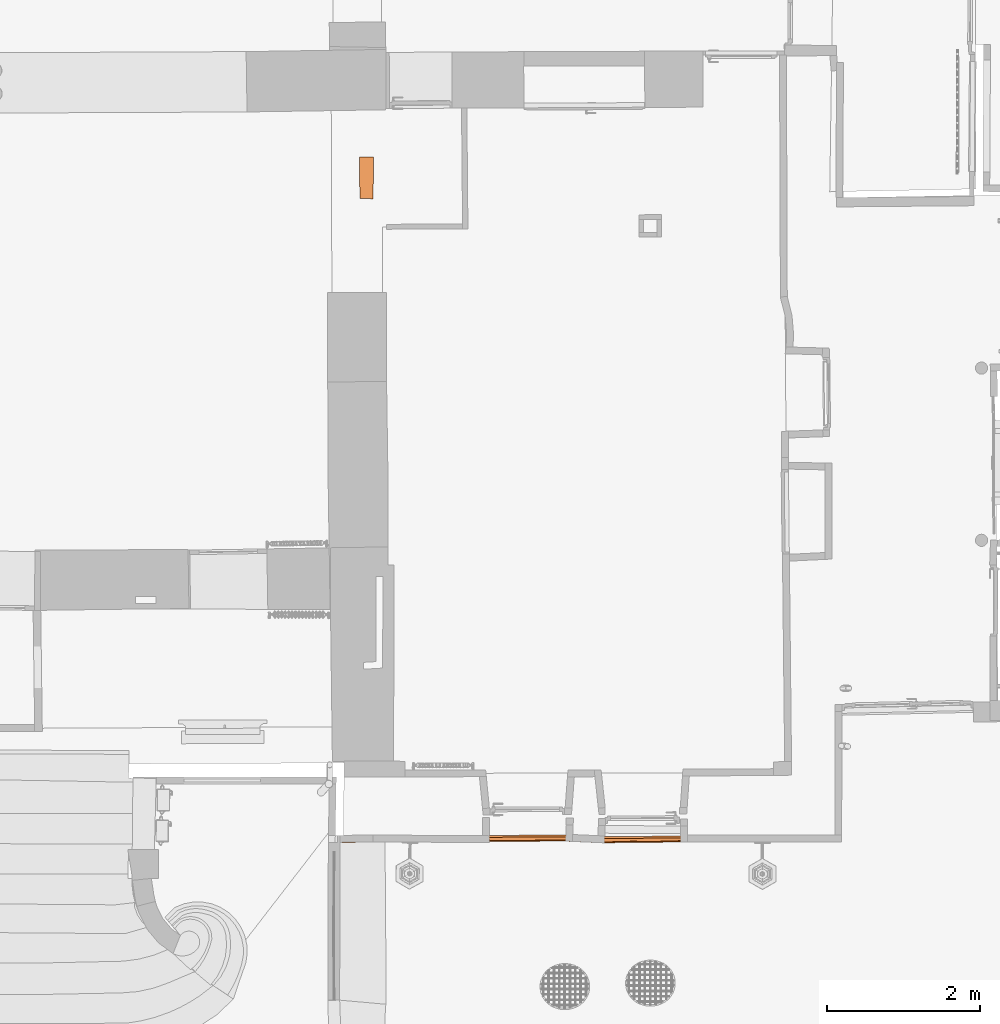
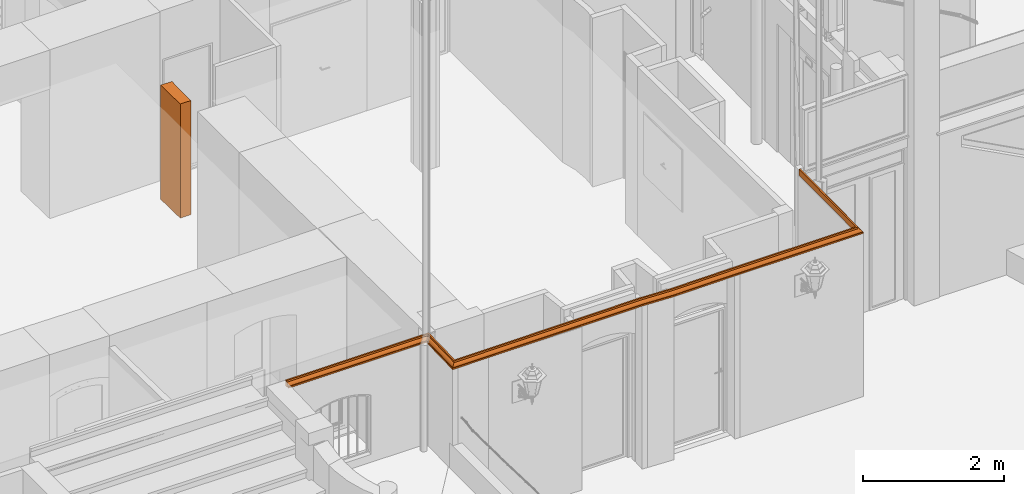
# One storey, part 126 of 133: 2 proxies.
"""IFC2X3 building model written with IfcOpenShell, lengths in centimetres."""

from ifc_helpers import new_model, entity, si_unit, converted_unit, direction, frame, origin, origin_with_axes, place, context, subcontext, project, spatial, faceted_brep, material, type_object, element, save


model = new_model("IFC2X3")

# Units and contexts
model_context = context("Model", 3, precision=0.0001, world=origin(), true_north=direction((0.225632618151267, 0.974212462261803, 0.0)))
body_context = subcontext(model_context, "Body", "Model", "MODEL_VIEW")
ifc_project = project(units=[si_unit("LENGTHUNIT", "METRE", prefix="CENTI"), si_unit("AREAUNIT", "SQUARE_METRE", prefix="CENTI"), si_unit("VOLUMEUNIT", "CUBIC_METRE", prefix="CENTI"), converted_unit("PLANEANGLEUNIT", "DEGREE", entity("IfcRatioMeasure", 0.0174532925), si_unit("PLANEANGLEUNIT", "RADIAN"), dimensions=[0, 0, 0, 0, 0, 0, 0])], contexts=[model_context])

# Site, building, storey
site_placement = place(None, origin_with_axes())
site = spatial("IfcSite", under=ifc_project, at=site_placement, Name="Default Site", CompositionType="ELEMENT")
building_placement = place(site_placement, origin_with_axes())
building = spatial("IfcBuilding", under=site, at=building_placement, Name="Default Building", CompositionType="ELEMENT")
storey_placement = place(building_placement, frame((0.0, 0.0, -291.400371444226), z_axis=(0.0, 0.0, 1.0), x_axis=(1.0, 0.0, 0.0)))
storey = spatial("IfcBuildingStorey", under=building, at=storey_placement, Name="Rez-de-Jardin", CompositionType="ELEMENT", Elevation=-291.400371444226)

# Proxies
ifc_material_1 = material(Name="Aluminium mat")
building_element_proxy_type = type_object("IfcBuildingElementProxyType", Name="Base100x80mm", PredefinedType="NOTDEFINED", material=ifc_material_1)
proxy_1_placement = place(storey_placement, origin_with_axes())
element("IfcBuildingElementProxy", 1, at=proxy_1_placement, inside=storey, type_object=building_element_proxy_type, material=ifc_material_1, Name="Extrusion (solide) 380567", context=body_context, shape_type="Brep", body=[
    faceted_brep([(231.900000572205, -980.200004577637, 281.4000002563), (231.900000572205, -980.200004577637, 283.900000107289), (6.35858923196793, -980.200004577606, 283.900000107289), (6.35858923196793, -980.200004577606, 281.4000002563), (232.918310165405, -979.199981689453, 283.900000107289), (6.35858923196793, -979.199981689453, 283.900000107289), (6.35858923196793, -980.200004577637, 283.900000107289), (233.006358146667, -979.113516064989, 284.777900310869), (6.35858923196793, -979.113516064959, 284.777900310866), (6.35858923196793, -979.199981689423, 283.900000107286), (233.006358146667, -979.113578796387, 284.777906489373), (233.267140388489, -978.857496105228, 285.622098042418), (6.35858923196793, -978.8574961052, 285.62209804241), (6.35858923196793, -979.113578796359, 284.777906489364), (233.267140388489, -978.857421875, 285.622075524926), (233.690595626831, -978.441586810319, 286.400048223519), (6.35858923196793, -978.441586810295, 286.400048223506), (6.35858923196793, -978.857421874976, 285.622075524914), (233.690595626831, -978.441619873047, 286.400065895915), (234.260487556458, -977.881993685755, 287.081972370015), (6.35858923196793, -977.881993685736, 287.081972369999), (6.35858923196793, -978.441619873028, 286.4000658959), (234.260487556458, -977.88200378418, 287.081980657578), (234.954881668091, -977.200054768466, 287.641641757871), (6.35858923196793, -977.200054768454, 287.641641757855), (6.35858923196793, -977.882003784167, 287.081980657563), (234.954881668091, -977.200031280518, 287.641613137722), (235.747122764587, -976.42210161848, 288.057425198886), (6.35858923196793, -976.422101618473, 288.057425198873), (6.35858923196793, -977.200031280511, 287.641613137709), (235.747122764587, -976.422119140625, 288.057457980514), (236.606764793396, -975.577928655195, 288.313540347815), (6.35858923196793, -975.577928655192, 288.313540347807), (6.35858923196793, -976.422119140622, 288.057457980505), (236.606764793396, -975.577926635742, 288.313533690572), (237.500762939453, -974.699974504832, 288.400004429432), (6.35858923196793, -974.699974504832, 288.400004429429), (6.35858923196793, -975.577926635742, 288.313533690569), (237.500762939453, -974.699974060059, 288.399999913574), (237.500762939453, -974.699974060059, 291.400000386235), (6.35858923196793, -974.699974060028, 291.400000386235), (6.35858923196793, -974.699974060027, 288.399999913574), (240.046548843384, -972.200012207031, 291.400000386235), (6.35858923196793, -972.200012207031, 291.400000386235), (6.35858923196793, -974.699974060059, 291.400000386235), (240.046548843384, -972.200012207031, 281.4000002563), (6.35858923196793, -972.200012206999, 281.4000002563), (6.35858923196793, -972.200012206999, 291.400000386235), (6.35858923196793, -980.200004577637, 281.4000002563), (6.35858923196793, -972.200012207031, 281.4000002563), (230.510497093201, -1056.73885345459, 281.4000002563), (230.5104970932, -1056.73885345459, 283.900000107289), (231.899996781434, -980.200004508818, 283.900000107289), (231.899996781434, -980.200004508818, 281.4000002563), (230.510497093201, -1056.73885345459, 283.900000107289), (231.528925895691, -1055.73329925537, 283.900000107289), (231.61698522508, -1055.64632436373, 284.777905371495), (233.006374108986, -979.113579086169, 284.777904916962), (232.91832506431, -979.19998195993, 283.899998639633), (231.616973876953, -1055.64632415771, 284.777906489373), (231.877767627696, -1055.38883186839, 285.622079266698), (233.267131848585, -978.857421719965, 285.622078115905), (233.006362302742, -979.113578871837, 284.777905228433), (231.877779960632, -1055.38883209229, 285.622075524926), (232.301283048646, -1054.97074127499, 286.400065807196), (233.690603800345, -978.44162002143, 286.400061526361), (233.267143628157, -978.857421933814, 285.622073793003), (232.30128288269, -1054.97074127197, 286.400065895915), (232.871223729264, -1054.40797808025, 287.081979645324), (234.260489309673, -977.882003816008, 287.081979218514), (233.690601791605, -978.441619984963, 286.400060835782), (232.871222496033, -1054.40797805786, 287.081980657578), (233.565691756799, -1053.72228629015, 287.641608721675), (234.954887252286, -977.200031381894, 287.64160633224), (234.260487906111, -977.882003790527, 287.081980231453), (233.56568813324, -1053.72228622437, 287.641613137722), (234.358021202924, -1052.939987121, 288.057464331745), (235.747123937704, -976.422119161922, 288.057455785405), (234.954882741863, -977.200031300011, 287.641611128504), (234.358024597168, -1052.93998718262, 288.057457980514), (235.217738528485, -1052.09112168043, 288.313532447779), (236.606765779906, -975.577926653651, 288.313530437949), (235.747124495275, -976.422119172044, 288.057452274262), (235.21773815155, -1052.09112167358, 288.313533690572), (236.111807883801, -1051.20840072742, 288.399999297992), (237.500762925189, -974.6999740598, 288.400000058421), (236.606764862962, -975.577926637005, 288.313532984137), (236.111807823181, -1051.20840072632, 288.399999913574), (236.111807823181, -1051.20840072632, 291.400000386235), (237.50075522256, -974.699973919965, 291.400000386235), (237.50075522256, -974.699973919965, 288.399999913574), (238.657855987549, -1048.69451522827, 291.400000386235), (238.657855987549, -1048.69451522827, 281.4000002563), (240.046550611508, -972.20001223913, 281.4000002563), (240.046550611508, -972.20001223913, 291.400000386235), (541.547107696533, -1055.05132675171, 281.400010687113), (541.54710769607, -1055.05132666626, 283.900010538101), (230.510496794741, -1056.73879844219, 283.900000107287), (230.510496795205, -1056.73879852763, 281.400000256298), (541.547107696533, -1055.05132675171, 283.900010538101), (541.567039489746, -1054.05120849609, 283.90001050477), (231.528925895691, -1055.73329925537, 283.900000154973), (230.510497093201, -1056.73885345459, 283.900000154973), (541.567039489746, -1054.05120849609, 283.900010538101), (541.5688039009, -1053.9647311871, 284.777918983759), (231.616973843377, -1055.64631796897, 284.777905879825), (231.528925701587, -1055.73326347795, 283.899996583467), (541.568803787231, -1053.9647102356, 284.777916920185), (541.57390571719, -1053.70860672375, 285.622073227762), (231.877779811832, -1055.38880466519, 285.622067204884), (231.616973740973, -1055.64629909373, 284.777898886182), (541.573905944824, -1053.70864868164, 285.622085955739), (541.582202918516, -1053.29275262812, 286.400077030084), (232.301282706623, -1054.9707088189, 286.400048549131), (231.877780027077, -1055.38884433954, 285.622082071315), (541.582202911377, -1053.29275131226, 286.400076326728), (541.593360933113, -1052.73304579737, 287.081995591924), (232.871222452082, -1054.40796995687, 287.081974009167), (232.301282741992, -1054.9707153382, 286.4000446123), (541.593360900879, -1052.73303985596, 287.081990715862), (541.606998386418, -1052.0510568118, 287.641610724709), (233.565688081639, -1053.72227671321, 287.641601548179), (232.871222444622, -1054.4079685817, 287.081969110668), (541.606998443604, -1052.05106735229, 287.641623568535), (541.622543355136, -1051.27296819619, 288.057474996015), (234.358024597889, -1052.93998731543, 288.057458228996), (233.565688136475, -1053.72228682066, 287.641614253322), (541.622543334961, -1051.27296447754, 288.057468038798), (541.639375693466, -1050.42867786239, 288.313548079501), (235.217738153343, -1052.09112200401, 288.313534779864), (234.35802458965, -1052.93998579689, 288.057453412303), (541.639375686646, -1050.42867660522, 288.31354393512), (541.65692329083, -1049.55072343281, 288.400004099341), (236.111807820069, -1051.20840015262, 288.399994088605), (235.217738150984, -1052.09112156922, 288.313532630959), (541.656923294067, -1049.55072402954, 288.400010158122), (541.656923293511, -1049.55072392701, 291.400010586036), (236.111807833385, -1051.20840260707, 291.400000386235), (236.111807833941, -1051.2084027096, 288.399999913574), (541.656923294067, -1049.55072402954, 291.400010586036), (541.706848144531, -1047.05038070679, 291.400010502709), (238.657855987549, -1048.69451522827, 291.400000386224), (236.111807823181, -1051.20840072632, 291.400000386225), (541.706848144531, -1047.05038070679, 291.400010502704), (541.706848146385, -1047.05038104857, 281.400009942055), (238.657855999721, -1048.69451747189, 281.4000002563), (238.657855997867, -1048.69451713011, 291.400000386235), (541.706848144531, -1047.05038070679, 281.400009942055), (541.547107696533, -1055.05132675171, 281.400010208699), (230.510497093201, -1056.73885345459, 281.39999982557), (238.657855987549, -1048.69451522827, 281.39999982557), (591.982221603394, -1057.34014511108, 281.400010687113), (591.982221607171, -1057.34014502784, 283.900010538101), (541.547107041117, -1055.05134119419, 283.900010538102), (541.547107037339, -1055.05134127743, 281.400010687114), (591.982221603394, -1057.34014511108, 283.900010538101), (591.9997215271, -1056.33993148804, 283.900010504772), (591.9997215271, -1056.33993148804, 283.900010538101), (592.001246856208, -1056.25344534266, 284.777918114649), (541.568801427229, -1053.96476223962, 284.777922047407), (541.567038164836, -1054.05123769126, 283.900013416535), (592.001247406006, -1056.25343322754, 284.777916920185), (592.005728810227, -1055.99729536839, 285.622091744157), (541.573906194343, -1053.70864318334, 285.622084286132), (541.568802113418, -1053.96474711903, 284.77792812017), (592.005729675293, -1055.99727630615, 285.622085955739), (592.012979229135, -1055.58134303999, 286.400057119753), (541.582203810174, -1053.29273150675, 286.400065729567), (541.573906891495, -1053.7086278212, 285.622074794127), (592.012977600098, -1055.58137893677, 286.400076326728), (592.022799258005, -1055.02159828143, 287.082012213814), (541.593360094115, -1052.73305763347, 287.082005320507), (541.582202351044, -1053.29276365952, 286.400086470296), (592.022800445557, -1055.02157211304, 287.081990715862), (592.034721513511, -1054.339501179, 287.64161983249), (541.606999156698, -1052.05105163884, 287.641604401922), (541.593361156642, -1052.73303422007, 287.081983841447), (592.034721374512, -1054.33950424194, 287.641623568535), (592.04831099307, -1053.56131129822, 288.05747796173), (541.622543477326, -1051.27296134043, 288.057462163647), (541.606998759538, -1052.05106039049, 287.641610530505), (592.048311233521, -1053.56130599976, 288.057468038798), (592.063093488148, -1052.71701145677, 288.313521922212), (541.639375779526, -1050.42867455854, 288.31353718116), (541.622543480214, -1051.27296127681, 288.057457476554), (592.063093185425, -1052.71701812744, 288.31354393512), (592.078447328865, -1051.83887510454, 288.400013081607), (541.656923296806, -1049.55072396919, 288.400009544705), (541.63937566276, -1050.42867713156, 288.313549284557), (592.078447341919, -1051.83887481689, 288.400010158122), (592.078447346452, -1051.83887471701, 291.400010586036), (541.656924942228, -1049.55068771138, 291.400010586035), (541.656924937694, -1049.55068781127, 288.400010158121), (592.078447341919, -1051.83887481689, 291.400010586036), (592.122220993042, -1049.33824539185, 291.400010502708), (541.706848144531, -1047.05038070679, 291.40001050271), (541.656923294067, -1049.55072402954, 291.400010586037), (592.122220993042, -1049.33824539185, 291.400010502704), (592.122220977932, -1049.33824572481, 281.400009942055), (541.706850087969, -1047.05033788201, 281.400009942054), (541.706850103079, -1047.05033754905, 291.400010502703), (592.122220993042, -1049.33824539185, 281.400009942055), (591.982221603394, -1057.34014511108, 281.400010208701), (541.547107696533, -1055.05132675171, 281.4000102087), (541.706848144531, -1047.05038070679, 281.400009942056), (691.648864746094, -1056.30722045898, 281.400010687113), (691.64886474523, -1056.30722037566, 283.900010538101), (591.982222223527, -1057.34020494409, 283.900010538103), (591.98222222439, -1057.34020502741, 281.400010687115), (691.648864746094, -1056.30722045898, 283.900010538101), (691.643333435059, -1055.3071975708, 283.90001050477), (591.9997215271, -1056.33993148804, 283.90001050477), (591.982221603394, -1057.34014511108, 283.900010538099), (691.643333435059, -1055.3071975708, 283.900010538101), (691.642856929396, -1055.22073129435, 284.777920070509), (592.001247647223, -1056.25345650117, 284.777919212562), (591.999721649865, -1056.33994333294, 283.900011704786), (691.6428565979, -1055.2206993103, 284.777916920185), (691.641425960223, -1054.96462557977, 285.622082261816), (592.005729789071, -1055.99728728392, 285.622089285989), (592.001247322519, -1056.25342517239, 284.777914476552), (691.641426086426, -1054.96463775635, 285.622085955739), (691.639136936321, -1054.54880374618, 286.400059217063), (592.012977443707, -1055.58136384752, 286.400068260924), (592.005729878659, -1055.99729592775, 285.622096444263), (691.639137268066, -1054.54883575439, 286.400076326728), (691.636038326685, -1053.98917255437, 287.082030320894), (592.022800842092, -1055.0216103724, 287.082022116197), (592.012977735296, -1055.58139198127, 286.400087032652), (691.636037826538, -1053.9891242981, 287.081990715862), (691.632270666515, -1053.30723302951, 287.641606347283), (592.034721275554, -1054.33949469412, 287.64161193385), (592.022800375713, -1055.02156537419, 287.081982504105), (691.632270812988, -1053.30724716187, 287.641623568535), (691.627979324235, -1052.52924406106, 288.057476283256), (592.048311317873, -1053.56131413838, 288.057483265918), (592.034721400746, -1054.33950677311, 287.641628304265), (691.627979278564, -1052.52923965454, 288.057468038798), (691.623306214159, -1051.68513670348, 288.313524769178), (592.063093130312, -1052.71701280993, 288.313526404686), (592.048311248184, -1053.56130741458, 288.057472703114), (691.623306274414, -1051.68514251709, 288.31354393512), (691.618490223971, -1050.80719040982, 288.400014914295), (592.078447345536, -1051.83887516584, 288.400013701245), (592.06309318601, -1052.71701818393, 288.313544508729), (691.618490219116, -1050.80718994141, 288.400010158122), (691.61849021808, -1050.80718984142, 291.400010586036), (592.078447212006, -1051.83886228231, 291.400010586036), (592.078447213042, -1051.8388623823, 288.400010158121), (691.618490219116, -1050.80718994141, 291.400010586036), (691.604661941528, -1048.30722808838, 291.400010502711), (592.122220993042, -1049.33824539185, 291.400010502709), (592.078447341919, -1051.83887481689, 291.400010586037), (691.604661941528, -1048.30722808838, 291.400010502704), (691.604661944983, -1048.30722842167, 281.400009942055), (592.122221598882, -1049.33830384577, 281.400009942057), (592.122221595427, -1049.33830351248, 291.400010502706), (691.604661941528, -1048.30722808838, 281.400009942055), (691.648864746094, -1056.30722045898, 281.400010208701), (591.982221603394, -1057.34014511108, 281.400010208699), (592.122220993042, -1049.33824539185, 281.400009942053), (901.974773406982, -1056.1635017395, 281.400010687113), (901.974773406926, -1056.16350165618, 283.900010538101), (691.648864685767, -1056.30713211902, 283.900010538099), (691.648864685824, -1056.30713220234, 281.40001068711), (901.974773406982, -1056.1635017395, 283.900010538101), (900.981044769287, -1055.16424179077, 283.900010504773), (691.643333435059, -1055.3071975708, 283.900010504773), (691.648864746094, -1056.30722045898, 283.900010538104), (900.981044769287, -1055.16424179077, 283.900010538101), (900.895118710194, -1055.07783423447, 284.777916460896), (691.642856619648, -1055.22073115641, 284.777920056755), (691.643333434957, -1055.30719742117, 283.900010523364), (900.895118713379, -1055.07783889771, 284.777916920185), (900.640678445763, -1054.82193128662, 285.622103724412), (691.641426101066, -1054.96465919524, 285.62209245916), (691.642856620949, -1055.22073306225, 284.777927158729), (900.640678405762, -1054.82187271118, 285.622085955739), (900.227451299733, -1054.40632059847, 286.40005697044), (691.639137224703, -1054.54877225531, 286.400042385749), (691.641426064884, -1054.96460621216, 285.622069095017), (900.227451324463, -1054.40635681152, 286.400076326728), (899.671268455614, -1053.84711117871, 287.081981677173), (691.636037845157, -1053.98915156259, 287.082013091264), (691.639137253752, -1054.54881479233, 286.400059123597), (899.671268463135, -1053.84712219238, 287.081990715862), (898.993682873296, -1053.16564405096, 287.641644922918), (691.63227082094, -1053.30725880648, 287.641637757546), (691.636037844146, -1053.98915008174, 287.08202213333), (898.993682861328, -1053.16562652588, 287.641623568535), (898.22053908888, -1052.388185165, 288.057456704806), (691.627979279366, -1052.52924082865, 288.05747023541), (691.632270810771, -1053.3072439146, 287.64161749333), (898.220539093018, -1052.38819122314, 288.057468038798), (897.381687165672, -1051.54457292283, 288.313550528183), (691.623306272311, -1051.68513943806, 288.313533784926), (691.627979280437, -1052.52924239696, 288.05747707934), (897.381687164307, -1051.54457092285, 288.31354393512), (896.509265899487, -1050.66728566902, 288.400007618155), (691.618490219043, -1050.80718983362, 288.400009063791), (691.623306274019, -1051.68514193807, 288.313538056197), (896.509265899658, -1050.66728591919, 288.400010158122), (896.50926589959, -1050.6672858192, 291.400010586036), (691.618490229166, -1050.80720465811, 291.400010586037), (691.618490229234, -1050.8072047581, 288.400010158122), (896.509265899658, -1050.66728591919, 291.400010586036), (894.02494430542, -1048.1689453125, 291.400010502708), (691.604661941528, -1048.30722808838, 291.40001050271), (894.02494430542, -1048.1689453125, 291.400010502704), (894.024944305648, -1048.16894564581, 281.400009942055), (691.604661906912, -1048.30717739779, 281.400009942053), (691.604661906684, -1048.30717706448, 291.400010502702), (894.02494430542, -1048.1689453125, 281.400009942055), (901.974773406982, -1056.1635017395, 281.4000102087), (691.648864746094, -1056.30722045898, 281.400010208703), (691.604661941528, -1048.30722808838, 281.400009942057), (903.050804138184, -885.355472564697, 281.400010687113), (903.050804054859, -885.355472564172, 283.900010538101), (901.974737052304, -1056.16350151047, 283.9000105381), (901.974737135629, -1056.163501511, 281.400010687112), (903.050804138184, -885.355472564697, 283.900010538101), (902.050876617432, -885.349178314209, 283.900010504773), (900.981044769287, -1055.16424179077, 283.900010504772), (901.974773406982, -1056.1635017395, 283.900010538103), (902.050876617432, -885.349178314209, 283.900010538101), (901.964411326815, -885.348701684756, 284.777920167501), (900.895141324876, -1055.07783904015, 284.777919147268), (900.981064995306, -1055.16424191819, 283.900012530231), (901.964378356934, -885.348701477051, 284.777916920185), (901.708308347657, -885.347080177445, 285.622083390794), (900.640643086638, -1054.82187248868, 285.622075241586), (900.895109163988, -1055.07783883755, 284.777914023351), (901.708316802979, -885.347080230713, 285.622085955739), (901.292488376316, -885.344409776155, 286.400062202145), (900.227422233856, -1054.40635662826, 286.400060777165), (900.640655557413, -1054.82187256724, 285.622073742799), (901.292514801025, -885.344409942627, 286.400076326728), (900.732895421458, -885.340881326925, 287.0819880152), (899.67130355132, -1053.84712241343, 287.082019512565), (900.227449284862, -1054.40635679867, 286.400074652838), (900.732898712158, -885.340881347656, 287.081990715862), (900.050954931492, -885.336589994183, 287.641658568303), (898.993688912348, -1053.165626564, 287.64163094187), (899.671294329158, -1053.84712235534, 287.082022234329), (900.050926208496, -885.336589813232, 287.641623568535), (899.273000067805, -885.331725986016, 288.057441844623), (898.220534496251, -1052.38819119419, 288.057459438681), (898.993670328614, -1053.16562644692, 287.641600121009), (899.273014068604, -885.331726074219, 288.057468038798), (898.428824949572, -885.326385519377, 288.313555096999), (897.381689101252, -1051.54457093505, 288.313550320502), (898.220542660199, -1052.38819124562, 288.057479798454), (898.428821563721, -885.326385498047, 288.31354393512), (897.550964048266, -885.320854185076, 288.400007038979), (896.509265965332, -1050.6672859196, 288.400010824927), (897.381686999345, -1051.54457092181, 288.313542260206), (897.550964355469, -885.320854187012, 288.400010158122), (897.550964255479, -885.320854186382, 291.400010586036), (896.509304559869, -1050.66728616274, 291.400010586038), (896.509304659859, -1050.66728616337, 288.400010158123), (897.550964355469, -885.320854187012, 291.400010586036), (895.051002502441, -885.305118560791, 291.400010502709), (896.509265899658, -1050.66728591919, 291.400010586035), (895.051002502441, -885.305118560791, 291.400010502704), (895.051002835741, -885.305118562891, 281.400009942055), (894.024983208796, -1048.16894555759, 281.400009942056), (894.024982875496, -1048.16894555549, 291.400010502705), (895.051002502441, -885.305118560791, 281.400009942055), (903.050804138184, -885.355472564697, 281.400010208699), (901.974773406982, -1056.1635017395, 281.400010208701), (894.02494430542, -1048.1689453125, 281.400009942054), (6.35858923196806, -979.199981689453, 283.900000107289), (6.35858923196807, -979.113578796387, 284.777906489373), (6.35858923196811, -978.857421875, 285.622075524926), (6.35858923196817, -978.441619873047, 286.400065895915), (6.35858923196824, -977.88200378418, 287.081980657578), (6.35858923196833, -977.200031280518, 287.641613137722), (6.35858923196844, -976.422119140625, 288.057457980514), (6.35858923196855, -975.577926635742, 288.313533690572), (6.35858923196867, -974.699974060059, 288.399999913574), (6.35858923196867, -974.699974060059, 291.400000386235), (6.35858923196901, -972.200012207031, 291.400000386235), (6.35858923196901, -972.200012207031, 281.4000002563), (897.550964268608, -885.320867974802, 291.400010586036), (897.550964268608, -885.320867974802, 288.400010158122), (898.42882148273, -885.326398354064, 288.31354393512), (899.273014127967, -885.331716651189, 288.057468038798), (900.050926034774, -885.336617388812, 287.641623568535), (900.732898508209, -885.34091372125, 287.081990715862), (901.292514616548, -885.344439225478, 286.400076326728), (901.708316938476, -885.347058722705, 285.622085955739), (901.964378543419, -885.348671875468, 284.777916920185), (902.050876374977, -885.349216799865, 283.900010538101), (903.050803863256, -885.355516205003, 283.900010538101), (903.050803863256, -885.355516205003, 281.400010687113)], [[[0, 1, 2, 3]], [[1, 4, 5, 6]], [[4, 7, 8, 9]], [[10, 11, 12, 13]], [[14, 15, 16, 17]], [[18, 19, 20, 21]], [[22, 23, 24, 25]], [[26, 27, 28, 29]], [[30, 31, 32, 33]], [[34, 35, 36, 37]], [[38, 39, 40, 41]], [[39, 42, 43, 44]], [[42, 45, 46, 47]], [[45, 0, 48, 49]], [[50, 51, 52, 53]], [[54, 55, 4, 1]], [[55, 56, 57, 58]], [[59, 60, 61, 62]], [[63, 64, 65, 66]], [[67, 68, 69, 70]], [[71, 72, 73, 74]], [[75, 76, 77, 78]], [[79, 80, 81, 82]], [[83, 84, 85, 86]], [[87, 88, 89, 90]], [[88, 91, 42, 39]], [[91, 92, 93, 94]], [[92, 50, 0, 45]], [[95, 96, 97, 98]], [[99, 100, 101, 102]], [[103, 104, 105, 106]], [[107, 108, 109, 110]], [[111, 112, 113, 114]], [[115, 116, 117, 118]], [[119, 120, 121, 122]], [[123, 124, 125, 126]], [[127, 128, 129, 130]], [[131, 132, 133, 134]], [[135, 136, 137, 138]], [[139, 140, 141, 142]], [[143, 144, 145, 146]], [[147, 148, 149, 150]], [[151, 152, 153, 154]], [[155, 156, 100, 99]], [[157, 158, 159, 160]], [[161, 162, 163, 164]], [[165, 166, 167, 168]], [[169, 170, 171, 172]], [[173, 174, 175, 176]], [[177, 178, 179, 180]], [[181, 182, 183, 184]], [[185, 186, 187, 188]], [[189, 190, 191, 192]], [[193, 194, 195, 196]], [[197, 198, 199, 200]], [[201, 202, 203, 204]], [[205, 206, 207, 208]], [[209, 210, 211, 212]], [[213, 214, 215, 216]], [[217, 218, 219, 220]], [[221, 222, 223, 224]], [[225, 226, 227, 228]], [[229, 230, 231, 232]], [[233, 234, 235, 236]], [[237, 238, 239, 240]], [[241, 242, 243, 244]], [[245, 246, 247, 248]], [[249, 250, 251, 252]], [[253, 254, 255, 256]], [[257, 258, 259, 260]], [[261, 262, 263, 264]], [[265, 266, 267, 268]], [[269, 270, 271, 272]], [[273, 274, 275, 276]], [[277, 278, 279, 280]], [[281, 282, 283, 284]], [[285, 286, 287, 288]], [[289, 290, 291, 292]], [[293, 294, 295, 296]], [[297, 298, 299, 300]], [[301, 302, 303, 304]], [[305, 306, 307, 249]], [[308, 309, 310, 311]], [[312, 313, 314, 315]], [[316, 317, 318, 319]], [[320, 321, 322, 323]], [[324, 325, 326, 327]], [[328, 329, 330, 331]], [[332, 333, 334, 335]], [[336, 337, 338, 339]], [[340, 341, 342, 343]], [[344, 345, 346, 347]], [[348, 349, 350, 351]], [[352, 353, 354, 355]], [[356, 357, 358, 359]], [[360, 361, 306, 362]], [[363, 364, 365, 366]], [[367, 368, 369, 370]], [[48, 6, 371, 372, 373, 374, 375, 376, 377, 378, 379, 380, 381, 382]], [[367, 363, 383, 384, 385, 386, 387, 388, 389, 390, 391, 392, 393, 394]]]),
])
ifc_material_2 = material(Name="Blanc")
proxy_2_placement = place(storey_placement, frame((289.21681297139, -214.336712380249, 18.0), z_axis=(0.0, 0.0, 1.0), x_axis=(1.0, 0.0, 0.0)))
element("IfcBuildingElementProxy", 2, at=proxy_2_placement, inside=storey, material=ifc_material_2, Name="Encombrement 78043", context=body_context, shape_type="Brep", body=[
    faceted_brep([(-8.46699585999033e-06, 7.17242469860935e-06, 197.108768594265), (0.394264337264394, 54.3337416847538, 197.108768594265), (-18.0693949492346, 54.4677210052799, 197.108768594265), (-17.3121537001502, 0.0633549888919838, 197.108768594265), (-8.46699585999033e-06, 7.17242469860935e-06, -6.78300828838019e-06), (0.394249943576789, 54.3337417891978, -6.78300828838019e-06), (0.394249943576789, 54.3337417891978, 197.108768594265), (0.394264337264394, 54.3337416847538, -6.78300828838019e-06), (-18.069394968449, 54.4677183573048, -6.78300828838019e-06), (-18.069394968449, 54.4677183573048, 197.108768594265), (-18.0693949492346, 54.4677210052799, -6.78300828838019e-06), (-17.3121488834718, 0.063355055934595, -6.78300828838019e-06), (-17.3121488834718, 0.063355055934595, 197.108768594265), (-17.3121537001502, 0.0633549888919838, -6.78300828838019e-06), (-8.49064757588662e-06, 7.09373691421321e-07, -6.78300828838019e-06), (-8.49064757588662e-06, 7.09373691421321e-07, 197.108768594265)], [[[0, 1, 2, 3]], [[4, 5, 6, 0]], [[7, 8, 9, 1]], [[10, 11, 12, 2]], [[13, 14, 15, 3]], [[13, 10, 7, 4]]]),
])

save(model, "model.ifc")
